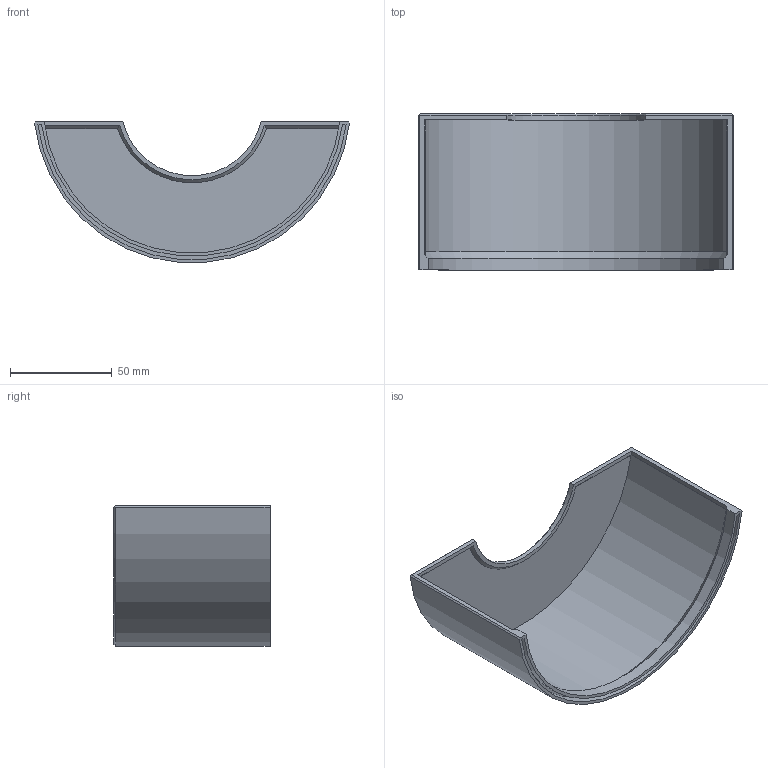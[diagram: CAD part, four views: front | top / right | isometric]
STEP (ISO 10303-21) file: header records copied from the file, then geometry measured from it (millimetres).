
FILE_DESCRIPTION(/* description */ (''),/* implementation_level */ '2;1');
FILE_NAME(/* name */ 'PokemonDrawers v2-drawer2a.step',/* time_stamp */ '2024-06-10T19:19:54+02:00',/* author */ (''),/* organization */ (''),/* preprocessor_version */ 'ST-DEVELOPER v20',/* originating_system */ 'Autodesk Translation Framework v13.14.0.145',/* authorisation */ '');
FILE_SCHEMA (('AUTOMOTIVE_DESIGN { 1 0 10303 214 3 1 1 }'));
Length unit declared in the file: millimetre
Products named in the file (2): PokemonDrawers; Component4
Assembly tree (1 placements, depth 2):
  PokemonDrawers
    Component4
Bounding box: 154.4 x 76.5 x 68.97 mm (x, y, z)
Volume: 40004.8 mm3; surface area: 51776 mm2
Topology: 1 solids, 1 shells, 31 faces, 80 edges, 52 vertices
Faces by surface type: plane 19, cylinder 8, cone 4
Entity records: 991 total; most frequent: CARTESIAN_POINT 198, ORIENTED_EDGE 160, DIRECTION 156, EDGE_CURVE 80, AXIS2_PLACEMENT_3D 56, VERTEX_POINT 52, LINE 44, VECTOR 44
